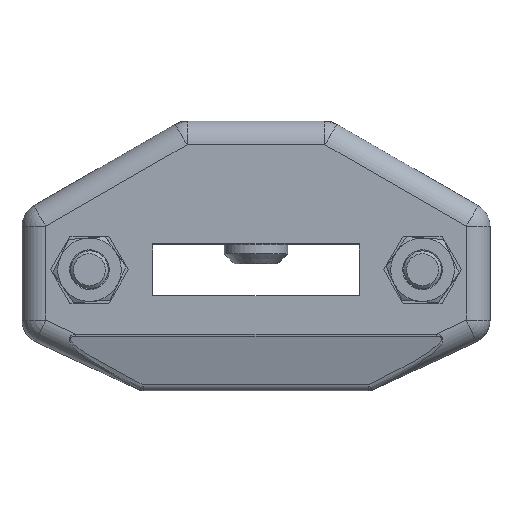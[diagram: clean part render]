
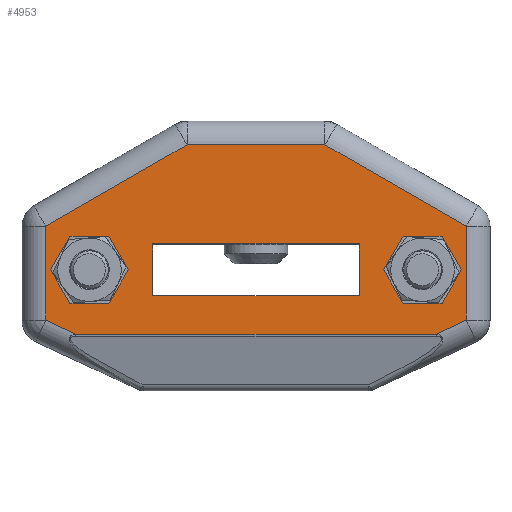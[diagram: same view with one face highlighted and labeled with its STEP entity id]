
A CAD part, top view. The second image highlights one B-rep face of the part: STEP entity #4953.
In plain terms, the highlighted planar face has unit normal (0, 0, 1).
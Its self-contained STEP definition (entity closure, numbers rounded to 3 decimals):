
#97=FACE_BOUND('',#821,.T.);
#98=FACE_BOUND('',#822,.T.);
#99=FACE_BOUND('',#823,.T.);
#246=PLANE('',#5363);
#522=FACE_OUTER_BOUND('',#820,.T.);
#820=EDGE_LOOP('',(#3757,#3758,#3759,#3760,#3761,#3762,#3763,#3764));
#821=EDGE_LOOP('',(#3765,#3766,#3767,#3768));
#822=EDGE_LOOP('',(#3769,#3770,#3771,#3772,#3773,#3774));
#823=EDGE_LOOP('',(#3775,#3776,#3777,#3778,#3779,#3780));
#1153=LINE('',#8174,#1540);
#1156=LINE('',#8281,#1543);
#1158=LINE('',#8287,#1545);
#1159=LINE('',#8289,#1546);
#1160=LINE('',#8291,#1547);
#1161=LINE('',#8293,#1548);
#1162=LINE('',#8295,#1549);
#1163=LINE('',#8296,#1550);
#1164=LINE('',#8299,#1551);
#1165=LINE('',#8301,#1552);
#1166=LINE('',#8303,#1553);
#1167=LINE('',#8304,#1554);
#1168=LINE('',#8307,#1555);
#1169=LINE('',#8309,#1556);
#1170=LINE('',#8311,#1557);
#1171=LINE('',#8313,#1558);
#1172=LINE('',#8315,#1559);
#1173=LINE('',#8316,#1560);
#1174=LINE('',#8319,#1561);
#1175=LINE('',#8321,#1562);
#1176=LINE('',#8323,#1563);
#1177=LINE('',#8325,#1564);
#1178=LINE('',#8327,#1565);
#1179=LINE('',#8328,#1566);
#1540=VECTOR('',#6203,10.);
#1543=VECTOR('',#6238,3.);
#1545=VECTOR('',#6244,3.);
#1546=VECTOR('',#6245,10.);
#1547=VECTOR('',#6246,10.);
#1548=VECTOR('',#6247,10.);
#1549=VECTOR('',#6248,10.);
#1550=VECTOR('',#6249,10.);
#1551=VECTOR('',#6250,10.);
#1552=VECTOR('',#6251,10.);
#1553=VECTOR('',#6252,10.);
#1554=VECTOR('',#6253,10.);
#1555=VECTOR('',#6254,10.);
#1556=VECTOR('',#6255,10.);
#1557=VECTOR('',#6256,10.);
#1558=VECTOR('',#6257,10.);
#1559=VECTOR('',#6258,10.);
#1560=VECTOR('',#6259,10.);
#1561=VECTOR('',#6260,10.);
#1562=VECTOR('',#6261,10.);
#1563=VECTOR('',#6262,10.);
#1564=VECTOR('',#6263,10.);
#1565=VECTOR('',#6264,10.);
#1566=VECTOR('',#6265,10.);
#2232=VERTEX_POINT('',#8167);
#2235=VERTEX_POINT('',#8172);
#2242=VERTEX_POINT('',#8280);
#2244=VERTEX_POINT('',#8286);
#2245=VERTEX_POINT('',#8288);
#2246=VERTEX_POINT('',#8290);
#2247=VERTEX_POINT('',#8292);
#2248=VERTEX_POINT('',#8294);
#2249=VERTEX_POINT('',#8297);
#2250=VERTEX_POINT('',#8298);
#2251=VERTEX_POINT('',#8300);
#2252=VERTEX_POINT('',#8302);
#2253=VERTEX_POINT('',#8305);
#2254=VERTEX_POINT('',#8306);
#2255=VERTEX_POINT('',#8308);
#2256=VERTEX_POINT('',#8310);
#2257=VERTEX_POINT('',#8312);
#2258=VERTEX_POINT('',#8314);
#2259=VERTEX_POINT('',#8317);
#2260=VERTEX_POINT('',#8318);
#2261=VERTEX_POINT('',#8320);
#2262=VERTEX_POINT('',#8322);
#2263=VERTEX_POINT('',#8324);
#2264=VERTEX_POINT('',#8326);
#2776=EDGE_CURVE('',#2235,#2232,#1153,.T.);
#2791=EDGE_CURVE('',#2232,#2242,#1156,.T.);
#2794=EDGE_CURVE('',#2244,#2235,#1158,.T.);
#2795=EDGE_CURVE('',#2245,#2244,#1159,.T.);
#2796=EDGE_CURVE('',#2246,#2245,#1160,.T.);
#2797=EDGE_CURVE('',#2247,#2246,#1161,.T.);
#2798=EDGE_CURVE('',#2248,#2247,#1162,.T.);
#2799=EDGE_CURVE('',#2242,#2248,#1163,.T.);
#2800=EDGE_CURVE('',#2249,#2250,#1164,.T.);
#2801=EDGE_CURVE('',#2250,#2251,#1165,.T.);
#2802=EDGE_CURVE('',#2251,#2252,#1166,.T.);
#2803=EDGE_CURVE('',#2252,#2249,#1167,.T.);
#2804=EDGE_CURVE('',#2253,#2254,#1168,.T.);
#2805=EDGE_CURVE('',#2254,#2255,#1169,.T.);
#2806=EDGE_CURVE('',#2255,#2256,#1170,.T.);
#2807=EDGE_CURVE('',#2256,#2257,#1171,.T.);
#2808=EDGE_CURVE('',#2257,#2258,#1172,.T.);
#2809=EDGE_CURVE('',#2258,#2253,#1173,.T.);
#2810=EDGE_CURVE('',#2259,#2260,#1174,.T.);
#2811=EDGE_CURVE('',#2260,#2261,#1175,.T.);
#2812=EDGE_CURVE('',#2261,#2262,#1176,.T.);
#2813=EDGE_CURVE('',#2262,#2263,#1177,.T.);
#2814=EDGE_CURVE('',#2263,#2264,#1178,.T.);
#2815=EDGE_CURVE('',#2264,#2259,#1179,.T.);
#3757=ORIENTED_EDGE('',*,*,#2776,.F.);
#3758=ORIENTED_EDGE('',*,*,#2794,.F.);
#3759=ORIENTED_EDGE('',*,*,#2795,.F.);
#3760=ORIENTED_EDGE('',*,*,#2796,.F.);
#3761=ORIENTED_EDGE('',*,*,#2797,.F.);
#3762=ORIENTED_EDGE('',*,*,#2798,.F.);
#3763=ORIENTED_EDGE('',*,*,#2799,.F.);
#3764=ORIENTED_EDGE('',*,*,#2791,.F.);
#3765=ORIENTED_EDGE('',*,*,#2800,.T.);
#3766=ORIENTED_EDGE('',*,*,#2801,.T.);
#3767=ORIENTED_EDGE('',*,*,#2802,.T.);
#3768=ORIENTED_EDGE('',*,*,#2803,.T.);
#3769=ORIENTED_EDGE('',*,*,#2804,.T.);
#3770=ORIENTED_EDGE('',*,*,#2805,.T.);
#3771=ORIENTED_EDGE('',*,*,#2806,.T.);
#3772=ORIENTED_EDGE('',*,*,#2807,.T.);
#3773=ORIENTED_EDGE('',*,*,#2808,.T.);
#3774=ORIENTED_EDGE('',*,*,#2809,.T.);
#3775=ORIENTED_EDGE('',*,*,#2810,.T.);
#3776=ORIENTED_EDGE('',*,*,#2811,.T.);
#3777=ORIENTED_EDGE('',*,*,#2812,.T.);
#3778=ORIENTED_EDGE('',*,*,#2813,.T.);
#3779=ORIENTED_EDGE('',*,*,#2814,.T.);
#3780=ORIENTED_EDGE('',*,*,#2815,.T.);
#4953=ADVANCED_FACE('',(#522,#97,#98,#99),#246,.T.);
#5363=AXIS2_PLACEMENT_3D('',#8285,#6242,#6243);
#6203=DIRECTION('',(-1.,0.,0.));
#6238=DIRECTION('',(-0.906,0.423,0.));
#6242=DIRECTION('center_axis',(0.,0.,
1.));
#6243=DIRECTION('ref_axis',(1.,0.,0.));
#6244=DIRECTION('',(-0.906,-0.423,0.));
#6245=DIRECTION('',(0.,-1.,0.));
#6246=DIRECTION('',(0.866,-0.5,0.));
#6247=DIRECTION('',(1.,0.,0.));
#6248=DIRECTION('',(0.866,0.5,0.));
#6249=DIRECTION('',(0.,1.,0.));
#6250=DIRECTION('',(-1.,0.,0.));
#6251=DIRECTION('',(0.,1.,0.));
#6252=DIRECTION('',(1.,0.,0.));
#6253=DIRECTION('',(0.,-1.,0.));
#6254=DIRECTION('',(-1.,0.,0.));
#6255=DIRECTION('',(-0.5,0.866,0.));
#6256=DIRECTION('',(0.5,0.866,0.));
#6257=DIRECTION('',(1.,0.,0.));
#6258=DIRECTION('',(0.5,-0.866,0.));
#6259=DIRECTION('',(-0.5,-0.866,0.));
#6260=DIRECTION('',(-1.,0.,0.));
#6261=DIRECTION('',(-0.5,0.866,0.));
#6262=DIRECTION('',(0.5,0.866,0.));
#6263=DIRECTION('',(1.,0.,0.));
#6264=DIRECTION('',(0.5,-0.866,0.));
#6265=DIRECTION('',(-0.5,-0.866,0.));
#8167=CARTESIAN_POINT('',(1054.353,752.121,11.));
#8172=CARTESIAN_POINT('',(1099.757,752.121,11.));
#8174=CARTESIAN_POINT('',(1062.305,752.121,11.));
#8280=CARTESIAN_POINT('',(1050.555,753.892,11.));
#8281=CARTESIAN_POINT('',(1063.823,747.705,11.));
#8285=CARTESIAN_POINT('Origin',(1077.055,761.986,11.));
#8286=CARTESIAN_POINT('',(1103.555,753.892,11.));
#8287=CARTESIAN_POINT('',(1084.889,745.188,11.));
#8288=CARTESIAN_POINT('',(1103.555,765.707,11.));
#8289=CARTESIAN_POINT('',(1103.555,770.486,11.));
#8290=CARTESIAN_POINT('',(1085.752,775.986,11.));
#8291=CARTESIAN_POINT('',(1095.684,770.252,11.));
#8292=CARTESIAN_POINT('',(1068.359,775.986,11.));
#8293=CARTESIAN_POINT('',(1062.305,775.986,11.));
#8294=CARTESIAN_POINT('',(1050.555,765.707,11.));
#8295=CARTESIAN_POINT('',(1068.937,776.32,11.));
#8296=CARTESIAN_POINT('',(1050.555,753.486,11.));
#8297=CARTESIAN_POINT('',(1090.055,756.986,11.));
#8298=CARTESIAN_POINT('',(1064.055,756.986,11.));
#8299=CARTESIAN_POINT('',(1070.555,756.986,11.));
#8300=CARTESIAN_POINT('',(1064.055,763.486,11.));
#8301=CARTESIAN_POINT('',(1064.055,762.736,11.));
#8302=CARTESIAN_POINT('',(1090.055,763.486,11.));
#8303=CARTESIAN_POINT('',(1083.555,763.486,11.));
#8304=CARTESIAN_POINT('',(1090.055,759.486,11.));
#8305=CARTESIAN_POINT('',(1058.508,755.986,11.));
#8306=CARTESIAN_POINT('',(1053.6,755.986,11.));
#8307=CARTESIAN_POINT('',(1065.328,755.986,11.));
#8308=CARTESIAN_POINT('',(1051.147,760.236,11.));
#8309=CARTESIAN_POINT('',(1054.006,755.283,11.));
#8310=CARTESIAN_POINT('',(1053.6,764.486,11.));
#8311=CARTESIAN_POINT('',(1055.991,768.627,11.));
#8312=CARTESIAN_POINT('',(1058.508,764.486,11.));
#8313=CARTESIAN_POINT('',(1067.782,764.486,11.));
#8314=CARTESIAN_POINT('',(1060.962,760.236,11.));
#8315=CARTESIAN_POINT('',(1062.594,757.408,11.));
#8316=CARTESIAN_POINT('',(1062.125,762.252,11.));
#8317=CARTESIAN_POINT('',(1100.51,755.986,11.));
#8318=CARTESIAN_POINT('',(1095.603,755.986,11.));
#8319=CARTESIAN_POINT('',(1086.329,755.986,11.));
#8320=CARTESIAN_POINT('',(1093.149,760.236,11.));
#8321=CARTESIAN_POINT('',(1090.759,764.377,11.));
#8322=CARTESIAN_POINT('',(1095.603,764.486,11.));
#8323=CARTESIAN_POINT('',(1092.743,759.533,11.));
#8324=CARTESIAN_POINT('',(1100.51,764.486,11.));
#8325=CARTESIAN_POINT('',(1088.783,764.486,11.));
#8326=CARTESIAN_POINT('',(1102.964,760.236,11.));
#8327=CARTESIAN_POINT('',(1099.347,766.502,11.));
#8328=CARTESIAN_POINT('',(1098.878,753.158,11.));
